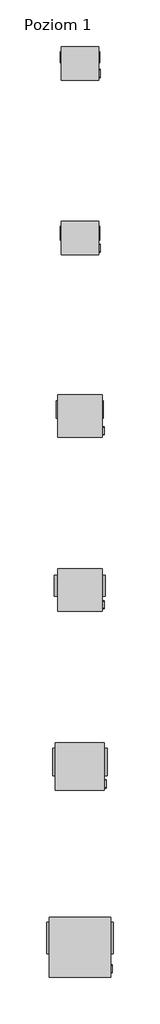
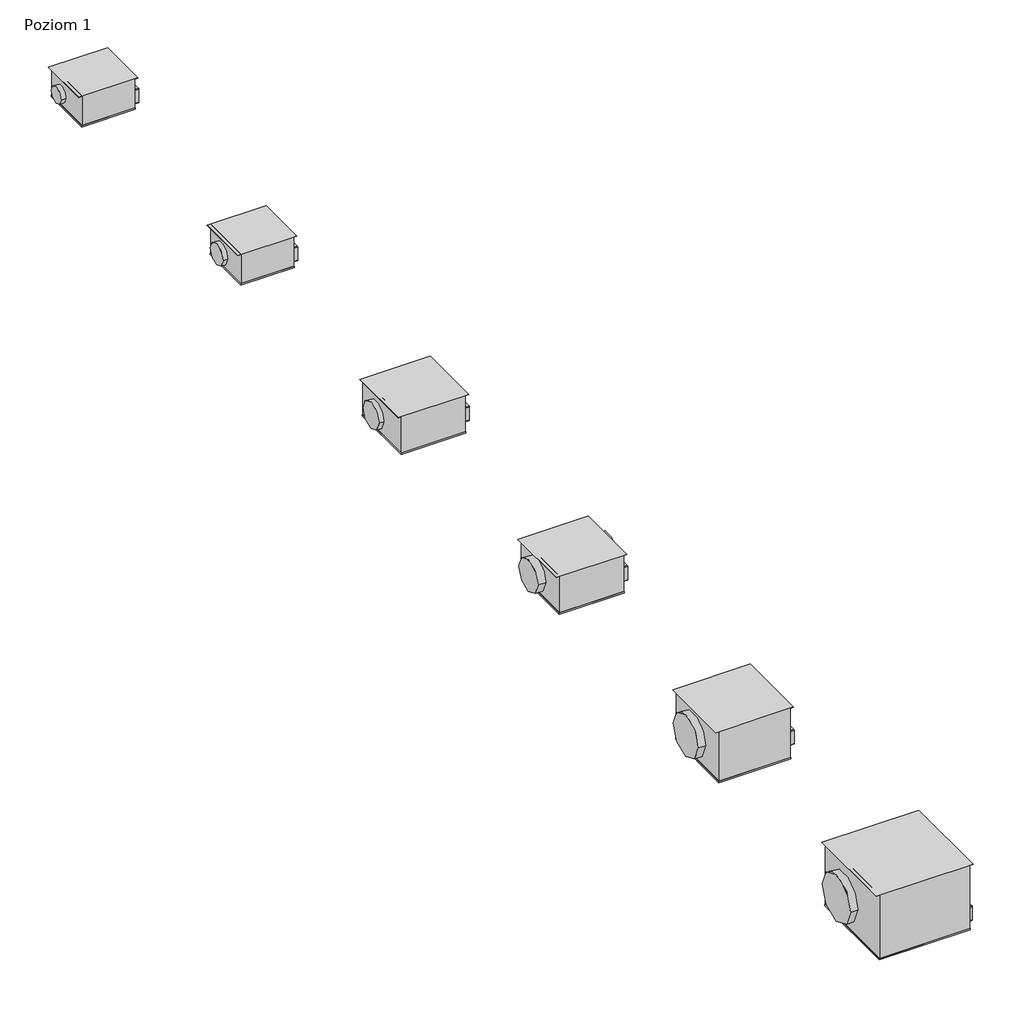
# One storey: 6 unitary equipment elements.
"""IFC4 building model written with IfcOpenShell, lengths in millimetres."""

from ifc_helpers import new_model, si_unit, origin, place, context, project, spatial, transform, mapped, element, save
from components import b12_ec_1ab13a20, b16_ec_82e6fe82, b20_ec_fcf8ed81, b25_ec_b75d6688, b31_ec_63e0a872, b35_ec_fa7ab7a6

model = new_model("IFC4")

# Units and contexts
model_context = context("Model", 3, world=origin())
ifc_project = project(units=[si_unit("LENGTHUNIT", "METRE", prefix="MILLI")], contexts=[model_context])

# Site, building, storey
site = spatial("IfcSite", under=ifc_project)
building = spatial("IfcBuilding", under=site)
storey = spatial("IfcBuildingStorey", under=building, Name="Poziom 1", Elevation=0.0)

# Unitary equipment
placement = place(None, origin())
b12_ec_shape = b12_ec_1ab13a20(model_context)
element("IfcUnitaryEquipment", 1, ObjectType="VE-Wentylator-ParaForma-Harmann-SENSOVENT_DUCT_B_EC-Wywiewny : B12 EC", at=placement, inside=storey, context=model_context, shape_type="MappedRepresentation", body=[
    mapped(b12_ec_shape, transform((4582.5, 3000.0, 0.0), x_axis=(1.0, 0.0, 0.0), y_axis=(0.0, 1.0, 0.0), z_axis=(0.0, 0.0, 1.0))),
])
b16_ec_shape = b16_ec_82e6fe82(model_context)
element("IfcUnitaryEquipment", 2, ObjectType="VE-Wentylator-ParaForma-Harmann-SENSOVENT_DUCT_B_EC-Wywiewny : B16 EC", at=placement, inside=storey, context=model_context, shape_type="MappedRepresentation", body=[
    mapped(b16_ec_shape, transform((4582.5, 1000.0, 0.0), x_axis=(1.0, 0.0, 0.0), y_axis=(0.0, 1.0, 0.0), z_axis=(0.0, 0.0, 1.0))),
])
b20_ec_shape = b20_ec_fcf8ed81(model_context)
element("IfcUnitaryEquipment", 3, ObjectType="VE-Wentylator-ParaForma-Harmann-SENSOVENT_DUCT_B_EC-Wywiewny : B20 EC", at=placement, inside=storey, context=model_context, shape_type="MappedRepresentation", body=[
    mapped(b20_ec_shape, transform((4582.5, -1000.0, 0.0), x_axis=(1.0, 0.0, 0.0), y_axis=(0.0, 1.0, 0.0), z_axis=(0.0, 0.0, 1.0))),
])
b25_ec_shape = b25_ec_b75d6688(model_context)
element("IfcUnitaryEquipment", 4, ObjectType="VE-Wentylator-ParaForma-Harmann-SENSOVENT_DUCT_B_EC-Wywiewny : B25 EC", at=placement, inside=storey, context=model_context, shape_type="MappedRepresentation", body=[
    mapped(b25_ec_shape, transform((4582.5, -3000.0, 0.0), x_axis=(1.0, 0.0, 0.0), y_axis=(0.0, 1.0, 0.0), z_axis=(0.0, 0.0, 1.0))),
])
b31_ec_shape = b31_ec_63e0a872(model_context)
element("IfcUnitaryEquipment", 5, ObjectType="VE-Wentylator-ParaForma-Harmann-SENSOVENT_DUCT_B_EC-Wywiewny : B31 EC", at=placement, inside=storey, context=model_context, shape_type="MappedRepresentation", body=[
    mapped(b31_ec_shape, transform((4582.5, -5000.0, 0.0), x_axis=(1.0, 0.0, 0.0), y_axis=(0.0, 1.0, 0.0), z_axis=(0.0, 0.0, 1.0))),
])
b35_ec_shape = b35_ec_fa7ab7a6(model_context)
element("IfcUnitaryEquipment", 6, ObjectType="VE-Wentylator-ParaForma-Harmann-SENSOVENT_DUCT_B_EC-Wywiewny : B35 EC", at=placement, inside=storey, context=model_context, shape_type="MappedRepresentation", body=[
    mapped(b35_ec_shape, transform((4582.5, -7000.0, 0.0), x_axis=(1.0, 0.0, 0.0), y_axis=(0.0, 1.0, 0.0), z_axis=(0.0, 0.0, 1.0))),
])

save(model, "model.ifc")
